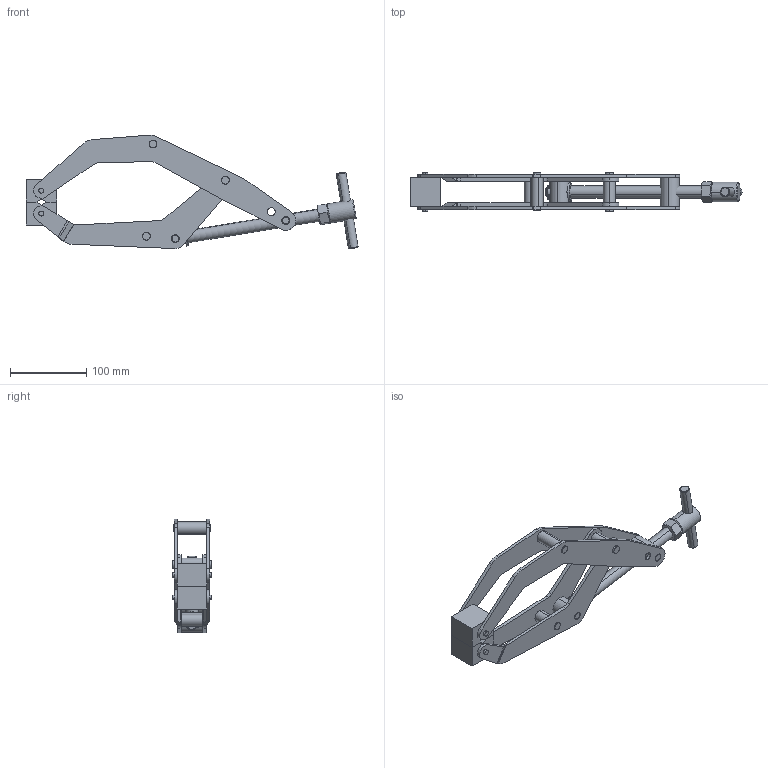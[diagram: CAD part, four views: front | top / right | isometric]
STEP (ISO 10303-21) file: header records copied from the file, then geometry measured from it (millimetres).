
FILE_DESCRIPTION (( 'STEP AP203' ), '1' );
FILE_NAME ('KFA-300.step', '2011-05-12T14:47:23', ( 'Usuario' ), ( '' ), 'SwSTEP 2.0', 'SolidWorks 2011', '' );
FILE_SCHEMA (( 'CONFIG_CONTROL_DESIGN' ));
Length unit declared in the file: millimetre
Products named in the file (17): KFA-300; 16.20059; 11.50006; 501-013; 17.50005; 01.20012; 03.20038; 16.20058; 16.20057; 16.20056; 16.20055; 16.20054; 16.20053; 19.10001_Esquerda; 19.10003; 19.10002; 19.10001_Direita
Assembly tree (19 placements, depth 2):
  KFA-300
    01.20012
    16.20057  x2
    19.10003  x2
    03.20038
    501-013
    11.50006
    16.20055
    16.20054
    16.20053
    19.10002  x2
    16.20058
    19.10001_Esquerda
    17.50005
    19.10001_Direita
    16.20056
    16.20059
Bounding box: 434.36 x 52 x 148.78 mm (x, y, z)
Volume: 384596.8 mm3; surface area: 154722.5 mm2
Topology: 19 solids, 19 shells, 319 faces, 744 edges, 474 vertices
Faces by surface type: cylinder 156, plane 117, cone 38, bspline 8
Entity records: 10567 total; most frequent: CARTESIAN_POINT 2185, DIRECTION 1444, ORIENTED_EDGE 1272, EDGE_CURVE 636, AXIS2_PLACEMENT_3D 577, VERTEX_POINT 402, EDGE_LOOP 332, LINE 290
